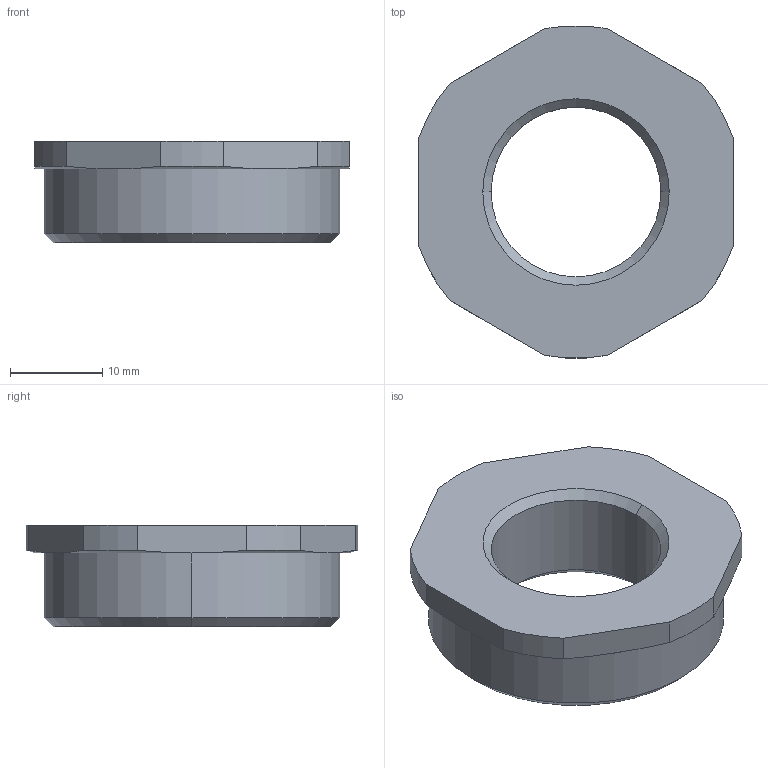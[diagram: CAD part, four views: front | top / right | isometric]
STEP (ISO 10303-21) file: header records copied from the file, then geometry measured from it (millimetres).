
FILE_DESCRIPTION (( 'STEP AP203' ), '1' );
FILE_NAME ('M32M20-6-OM.STEP', '2005-10-05T12:55:40', ( ' ' ), ( '' ), 'SwSTEP 2.0', 'SolidWorks 2005143', '' );
FILE_SCHEMA (( 'CONFIG_CONTROL_DESIGN' ));
Length unit declared in the file: millimetre
Products named in the file (1): M32M20-6-OM
Bounding box: 34 x 35.93 x 11 mm (x, y, z)
Volume: 6322.3 mm3; surface area: 3053.7 mm2
Topology: 1 solids, 1 shells, 68 faces, 174 edges, 112 vertices
Faces by surface type: plane 46, cone 12, cylinder 10
Entity records: 2127 total; most frequent: CARTESIAN_POINT 391, ORIENTED_EDGE 348, DIRECTION 332, EDGE_CURVE 174, LINE 130, VECTOR 130, VERTEX_POINT 112, AXIS2_PLACEMENT_3D 101
